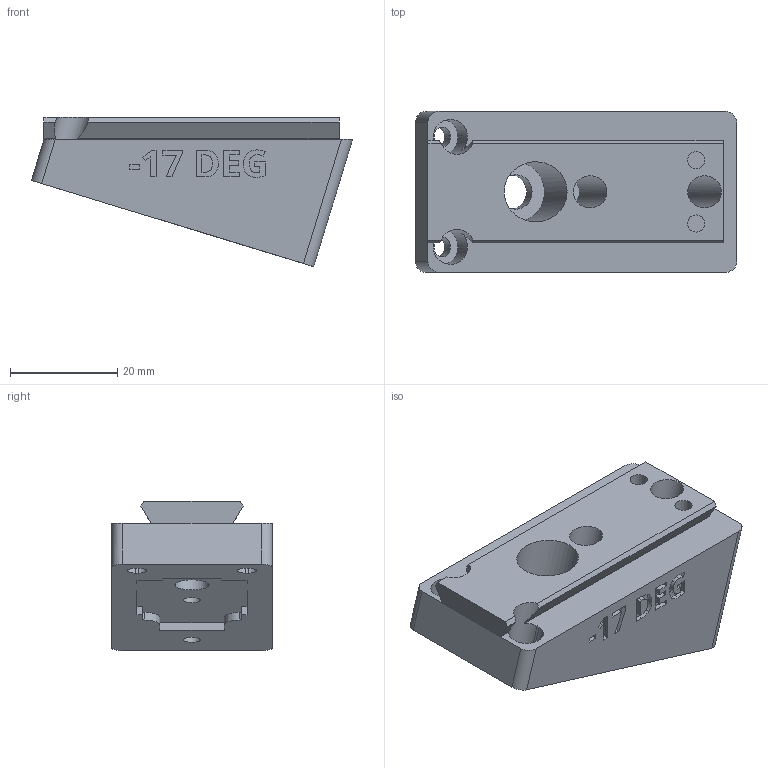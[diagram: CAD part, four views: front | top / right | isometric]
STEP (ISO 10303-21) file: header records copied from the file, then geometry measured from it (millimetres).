
FILE_DESCRIPTION(/* description */ ('STEP AP242 Edition 2','CAx-IF Rec.Pracs.---Representation and Presentation of Product Manufacturing Information (PMI)---4.0---2014-10-13','CAx-IF Rec.Pracs.---3D Tessellated Geometry---0.4---2014-09-14','2;1','CAx-IF Rec.Pracs.---User Defined Attributes---1.5---2016-08-15'),/* implementation_level */ '2;1');
FILE_NAME(/* name */ 'Camera Wedges - CAMERA MOUNTING WEDGE, NEG, -17 DEG',/* time_stamp */ '2026-08-11T00:06:34Z',/* author */ (''),/* organization */ (''),/* preprocessor_version */ 'ST-DEVELOPER v20',/* originating_system */ 'ONSHAPE BY PTC INC, 1.219',/* authorisation */ ' ');
FILE_SCHEMA (('AP242_MANAGED_MODEL_BASED_3D_ENGINEERING_MIM_LF { 1 0 10303 442 3 1 4 }'));
Length unit declared in the file: metre
Products named in the file (1): CAMERA MOUNTING WEDGE, NEG, -17 DEG
Bounding box: 59.85 x 30 x 27.82 mm (x, y, z)
Volume: 26844.8 mm3; surface area: 8843 mm2
Topology: 1 solids, 1 shells, 219 faces, 589 edges, 392 vertices
Faces by surface type: plane 153, cylinder 36, bspline 30
Full cylindrical faces by diameter (mm): 3.2 x4, 6 x2, 6.4 x1, 11.2 x1
Entity records: 6913 total; most frequent: CARTESIAN_POINT 1523, ORIENTED_EDGE 1162, DIRECTION 985, EDGE_CURVE 581, LINE 437, VECTOR 437, VERTEX_POINT 392, AXIS2_PLACEMENT_3D 274
